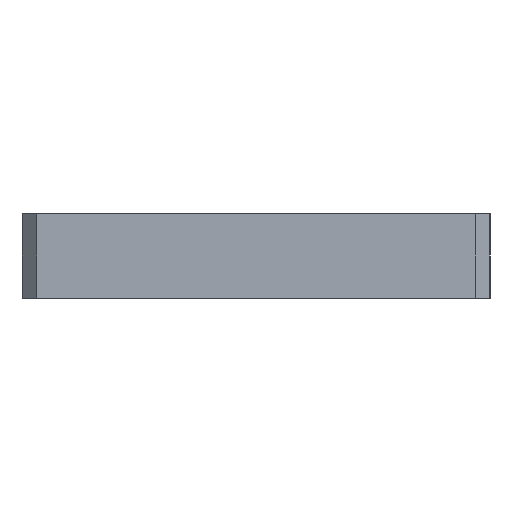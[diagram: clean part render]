
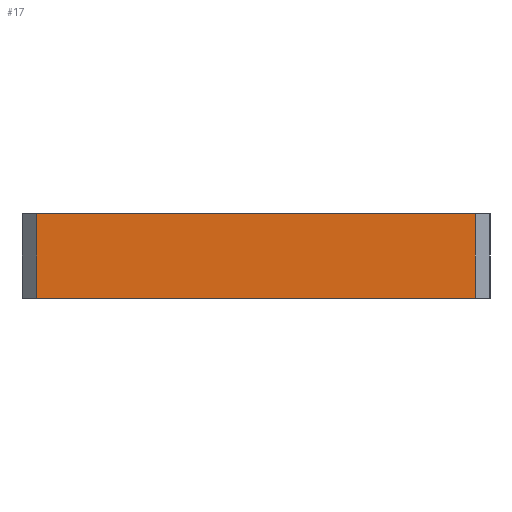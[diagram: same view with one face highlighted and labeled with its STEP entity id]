
A CAD part, left-side view. The second image highlights one B-rep face of the part: STEP entity #17.
In plain terms, the highlighted planar face has unit normal (-1, 0, 0).
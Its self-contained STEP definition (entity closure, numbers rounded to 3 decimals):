
#17 = ADVANCED_FACE('',(#18),#32,.F.);
#18 = FACE_BOUND('',#19,.F.);
#19 = EDGE_LOOP('',(#20,#55,#83,#111));
#20 = ORIENTED_EDGE('',*,*,#21,.F.);
#21 = EDGE_CURVE('',#22,#24,#26,.T.);
#22 = VERTEX_POINT('',#23);
#23 = CARTESIAN_POINT('',(-56.695,-20.8,4.));
#24 = VERTEX_POINT('',#25);
#25 = CARTESIAN_POINT('',(-56.695,20.8,4.));
#26 = SURFACE_CURVE('',#27,(#31,#43),.PCURVE_S1.);
#27 = LINE('',#28,#29);
#28 = CARTESIAN_POINT('',(-56.695,-22.2,4.));
#29 = VECTOR('',#30,1.);
#30 = DIRECTION('',(0.,1.,0.));
#31 = PCURVE('',#32,#37);
#32 = PLANE('',#33);
#33 = AXIS2_PLACEMENT_3D('',#34,#35,#36);
#34 = CARTESIAN_POINT('',(-56.695,-22.2,-4.));
#35 = DIRECTION('',(1.,0.,0.));
#36 = DIRECTION('',(0.,0.,1.));
#37 = DEFINITIONAL_REPRESENTATION('',(#38),#42);
#38 = LINE('',#39,#40);
#39 = CARTESIAN_POINT('',(8.,0.));
#40 = VECTOR('',#41,1.);
#41 = DIRECTION('',(0.,-1.));
#42 = ( GEOMETRIC_REPRESENTATION_CONTEXT(2) 
PARAMETRIC_REPRESENTATION_CONTEXT() REPRESENTATION_CONTEXT('2D SPACE',''
  ) );
#43 = PCURVE('',#44,#49);
#44 = PLANE('',#45);
#45 = AXIS2_PLACEMENT_3D('',#46,#47,#48);
#46 = CARTESIAN_POINT('',(-56.695,-22.2,4.));
#47 = DIRECTION('',(0.,0.,1.));
#48 = DIRECTION('',(1.,0.,0.));
#49 = DEFINITIONAL_REPRESENTATION('',(#50),#54);
#50 = LINE('',#51,#52);
#51 = CARTESIAN_POINT('',(0.,0.));
#52 = VECTOR('',#53,1.);
#53 = DIRECTION('',(0.,1.));
#54 = ( GEOMETRIC_REPRESENTATION_CONTEXT(2) 
PARAMETRIC_REPRESENTATION_CONTEXT() REPRESENTATION_CONTEXT('2D SPACE',''
  ) );
#55 = ORIENTED_EDGE('',*,*,#56,.F.);
#56 = EDGE_CURVE('',#57,#22,#59,.T.);
#57 = VERTEX_POINT('',#58);
#58 = CARTESIAN_POINT('',(-56.695,-20.8,-4.));
#59 = SURFACE_CURVE('',#60,(#64,#71),.PCURVE_S1.);
#60 = LINE('',#61,#62);
#61 = CARTESIAN_POINT('',(-56.695,-20.8,-4.));
#62 = VECTOR('',#63,1.);
#63 = DIRECTION('',(0.,0.,1.));
#64 = PCURVE('',#32,#65);
#65 = DEFINITIONAL_REPRESENTATION('',(#66),#70);
#66 = LINE('',#67,#68);
#67 = CARTESIAN_POINT('',(0.,-1.4));
#68 = VECTOR('',#69,1.);
#69 = DIRECTION('',(1.,0.));
#70 = ( GEOMETRIC_REPRESENTATION_CONTEXT(2) 
PARAMETRIC_REPRESENTATION_CONTEXT() REPRESENTATION_CONTEXT('2D SPACE',''
  ) );
#71 = PCURVE('',#72,#77);
#72 = PLANE('',#73);
#73 = AXIS2_PLACEMENT_3D('',#74,#75,#76);
#74 = CARTESIAN_POINT('',(-55.995,-21.5,-4.));
#75 = DIRECTION('',(-0.707,-0.707,0.));
#76 = DIRECTION('',(-0.,-0.,-1.));
#77 = DEFINITIONAL_REPRESENTATION('',(#78),#82);
#78 = LINE('',#79,#80);
#79 = CARTESIAN_POINT('',(-0.,-0.99));
#80 = VECTOR('',#81,1.);
#81 = DIRECTION('',(-1.,0.));
#82 = ( GEOMETRIC_REPRESENTATION_CONTEXT(2) 
PARAMETRIC_REPRESENTATION_CONTEXT() REPRESENTATION_CONTEXT('2D SPACE',''
  ) );
#83 = ORIENTED_EDGE('',*,*,#84,.T.);
#84 = EDGE_CURVE('',#57,#85,#87,.T.);
#85 = VERTEX_POINT('',#86);
#86 = CARTESIAN_POINT('',(-56.695,20.8,-4.));
#87 = SURFACE_CURVE('',#88,(#92,#99),.PCURVE_S1.);
#88 = LINE('',#89,#90);
#89 = CARTESIAN_POINT('',(-56.695,-22.2,-4.));
#90 = VECTOR('',#91,1.);
#91 = DIRECTION('',(0.,1.,0.));
#92 = PCURVE('',#32,#93);
#93 = DEFINITIONAL_REPRESENTATION('',(#94),#98);
#94 = LINE('',#95,#96);
#95 = CARTESIAN_POINT('',(0.,0.));
#96 = VECTOR('',#97,1.);
#97 = DIRECTION('',(0.,-1.));
#98 = ( GEOMETRIC_REPRESENTATION_CONTEXT(2) 
PARAMETRIC_REPRESENTATION_CONTEXT() REPRESENTATION_CONTEXT('2D SPACE',''
  ) );
#99 = PCURVE('',#100,#105);
#100 = PLANE('',#101);
#101 = AXIS2_PLACEMENT_3D('',#102,#103,#104);
#102 = CARTESIAN_POINT('',(-56.695,-22.2,-4.));
#103 = DIRECTION('',(0.,0.,1.));
#104 = DIRECTION('',(1.,0.,0.));
#105 = DEFINITIONAL_REPRESENTATION('',(#106),#110);
#106 = LINE('',#107,#108);
#107 = CARTESIAN_POINT('',(0.,0.));
#108 = VECTOR('',#109,1.);
#109 = DIRECTION('',(0.,1.));
#110 = ( GEOMETRIC_REPRESENTATION_CONTEXT(2) 
PARAMETRIC_REPRESENTATION_CONTEXT() REPRESENTATION_CONTEXT('2D SPACE',''
  ) );
#111 = ORIENTED_EDGE('',*,*,#112,.T.);
#112 = EDGE_CURVE('',#85,#24,#113,.T.);
#113 = SURFACE_CURVE('',#114,(#118,#125),.PCURVE_S1.);
#114 = LINE('',#115,#116);
#115 = CARTESIAN_POINT('',(-56.695,20.8,-4.));
#116 = VECTOR('',#117,1.);
#117 = DIRECTION('',(0.,0.,1.));
#118 = PCURVE('',#32,#119);
#119 = DEFINITIONAL_REPRESENTATION('',(#120),#124);
#120 = LINE('',#121,#122);
#121 = CARTESIAN_POINT('',(0.,-43.));
#122 = VECTOR('',#123,1.);
#123 = DIRECTION('',(1.,0.));
#124 = ( GEOMETRIC_REPRESENTATION_CONTEXT(2) 
PARAMETRIC_REPRESENTATION_CONTEXT() REPRESENTATION_CONTEXT('2D SPACE',''
  ) );
#125 = PCURVE('',#126,#131);
#126 = PLANE('',#127);
#127 = AXIS2_PLACEMENT_3D('',#128,#129,#130);
#128 = CARTESIAN_POINT('',(-55.995,21.5,-4.));
#129 = DIRECTION('',(0.707,-0.707,0.));
#130 = DIRECTION('',(-0.,-0.,-1.));
#131 = DEFINITIONAL_REPRESENTATION('',(#132),#136);
#132 = LINE('',#133,#134);
#133 = CARTESIAN_POINT('',(-0.,-0.99));
#134 = VECTOR('',#135,1.);
#135 = DIRECTION('',(-1.,0.));
#136 = ( GEOMETRIC_REPRESENTATION_CONTEXT(2) 
PARAMETRIC_REPRESENTATION_CONTEXT() REPRESENTATION_CONTEXT('2D SPACE',''
  ) );
